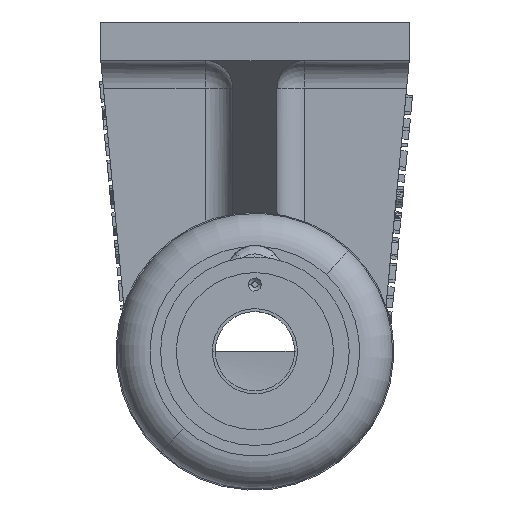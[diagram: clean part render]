
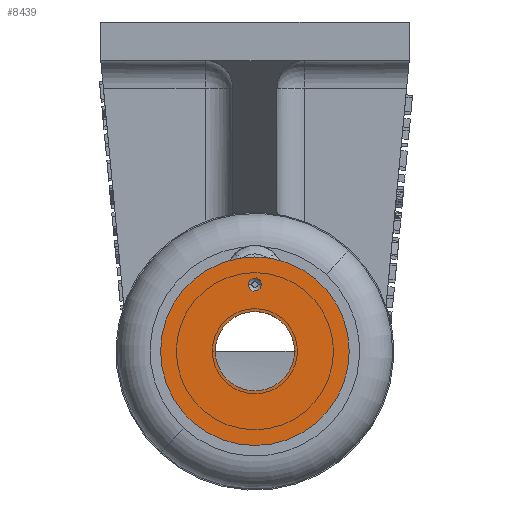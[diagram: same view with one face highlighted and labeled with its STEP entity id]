
A CAD part, front view. The second image highlights one B-rep face of the part: STEP entity #8439.
In plain terms, the highlighted planar face has unit normal (0, -1, 0).
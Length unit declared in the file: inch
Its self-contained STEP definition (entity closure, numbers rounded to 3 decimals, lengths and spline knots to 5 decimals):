
#708=CARTESIAN_POINT('',(0.625,-0.125,-30.));
#709=DIRECTION('',(0.,-1.,0.));
#710=DIRECTION('',(-1.,0.,0.));
#711=AXIS2_PLACEMENT_3D('',#708,#709,#710);
#713=CARTESIAN_POINT('',(0.625,-0.125,-30.));
#714=DIRECTION('',(0.,-1.,0.));
#715=DIRECTION('',(1.,0.,0.));
#716=AXIS2_PLACEMENT_3D('',#713,#714,#715);
#718=CARTESIAN_POINT('',(0.68625,-0.125,
-29.395));
#719=CARTESIAN_POINT('',(0.68625,-0.125,
-29.39739));
#720=CARTESIAN_POINT('',(0.68598,-0.125,
-29.40212));
#721=CARTESIAN_POINT('',(0.68474,-0.125,
-29.40916));
#722=CARTESIAN_POINT('',(0.68269,-0.125,
-29.41599));
#723=CARTESIAN_POINT('',(0.67986,-0.125,
-29.42255));
#724=CARTESIAN_POINT('',(0.6763,-0.125,
-29.42873));
#725=CARTESIAN_POINT('',(0.67203,-0.125,
-29.43446));
#726=CARTESIAN_POINT('',(0.66714,-0.125,
-29.43965));
#727=CARTESIAN_POINT('',(0.66165,-0.125,
-29.44425));
#728=CARTESIAN_POINT('',(0.6557,-0.125,
-29.44816));
#729=CARTESIAN_POINT('',(0.64931,-0.125,
-29.45137));
#730=CARTESIAN_POINT('',(0.64262,-0.125,
-29.45381));
#731=CARTESIAN_POINT('',(0.63565,-0.125,
-29.45546));
#732=CARTESIAN_POINT('',(0.62858,-0.125,
-29.45629));
#733=CARTESIAN_POINT('',(0.62142,-0.125,
-29.45629));
#734=CARTESIAN_POINT('',(0.61435,-0.125,
-29.45546));
#735=CARTESIAN_POINT('',(0.60738,-0.125,
-29.45381));
#736=CARTESIAN_POINT('',(0.60069,-0.125,
-29.45138));
#737=CARTESIAN_POINT('',(0.5943,-0.125,
-29.44816));
#738=CARTESIAN_POINT('',(0.58835,-0.125,
-29.44425));
#739=CARTESIAN_POINT('',(0.58286,-0.125,
-29.43965));
#740=CARTESIAN_POINT('',(0.57798,-0.125,
-29.43447));
#741=CARTESIAN_POINT('',(0.5737,-0.125,
-29.42873));
#742=CARTESIAN_POINT('',(0.57014,-0.125,
-29.42255));
#743=CARTESIAN_POINT('',(0.56731,-0.125,
-29.41599));
#744=CARTESIAN_POINT('',(0.56526,-0.125,
-29.40916));
#745=CARTESIAN_POINT('',(0.56402,-0.125,
-29.40212));
#746=CARTESIAN_POINT('',(0.56375,-0.125,
-29.39739));
#747=CARTESIAN_POINT('',(0.56375,-0.125,
-29.395));
#749=CARTESIAN_POINT('',(0.56375,-0.125,
-29.395));
#750=CARTESIAN_POINT('',(0.56375,-0.125,
-29.39261));
#751=CARTESIAN_POINT('',(0.56402,-0.125,
-29.38788));
#752=CARTESIAN_POINT('',(0.56526,-0.125,
-29.38084));
#753=CARTESIAN_POINT('',(0.56731,-0.125,
-29.37401));
#754=CARTESIAN_POINT('',(0.57014,-0.125,
-29.36745));
#755=CARTESIAN_POINT('',(0.5737,-0.125,
-29.36127));
#756=CARTESIAN_POINT('',(0.57797,-0.125,
-29.35554));
#757=CARTESIAN_POINT('',(0.58286,-0.125,
-29.35035));
#758=CARTESIAN_POINT('',(0.58835,-0.125,
-29.34575));
#759=CARTESIAN_POINT('',(0.5943,-0.125,
-29.34184));
#760=CARTESIAN_POINT('',(0.60069,-0.125,
-29.33863));
#761=CARTESIAN_POINT('',(0.60738,-0.125,
-29.33619));
#762=CARTESIAN_POINT('',(0.61435,-0.125,
-29.33454));
#763=CARTESIAN_POINT('',(0.62142,-0.125,
-29.33371));
#764=CARTESIAN_POINT('',(0.62858,-0.125,
-29.33371));
#765=CARTESIAN_POINT('',(0.63565,-0.125,
-29.33454));
#766=CARTESIAN_POINT('',(0.64262,-0.125,
-29.33619));
#767=CARTESIAN_POINT('',(0.64931,-0.125,
-29.33862));
#768=CARTESIAN_POINT('',(0.6557,-0.125,
-29.34184));
#769=CARTESIAN_POINT('',(0.66165,-0.125,
-29.34575));
#770=CARTESIAN_POINT('',(0.66714,-0.125,
-29.35035));
#771=CARTESIAN_POINT('',(0.67202,-0.125,
-29.35553));
#772=CARTESIAN_POINT('',(0.6763,-0.125,
-29.36127));
#773=CARTESIAN_POINT('',(0.67986,-0.125,
-29.36745));
#774=CARTESIAN_POINT('',(0.68269,-0.125,
-29.37401));
#775=CARTESIAN_POINT('',(0.68474,-0.125,
-29.38084));
#776=CARTESIAN_POINT('',(0.68598,-0.125,
-29.38788));
#777=CARTESIAN_POINT('',(0.68625,-0.125,
-29.39261));
#778=CARTESIAN_POINT('',(0.68625,-0.125,
-29.395));
#780=CARTESIAN_POINT('',(0.625,-0.125,-30.));
#781=DIRECTION('',(0.,-1.,0.));
#782=DIRECTION('',(-1.,0.,0.));
#783=AXIS2_PLACEMENT_3D('',#780,#781,#782);
#785=CARTESIAN_POINT('',(0.625,-0.125,-30.));
#786=DIRECTION('',(0.,-1.,0.));
#787=DIRECTION('',(1.,0.,0.));
#788=AXIS2_PLACEMENT_3D('',#785,#786,#787);
#6966=CARTESIAN_POINT('',(-0.23,-0.125,-30.));
#6967=CARTESIAN_POINT('',(1.48,-0.125,-30.));
#6968=VERTEX_POINT('',#6966);
#6969=VERTEX_POINT('',#6967);
#6978=VERTEX_POINT('',#718);
#6979=VERTEX_POINT('',#747);
#6986=CARTESIAN_POINT('',(0.26552,-0.125,-30.));
#6987=CARTESIAN_POINT('',(0.98448,-0.125,-30.));
#6988=VERTEX_POINT('',#6986);
#6989=VERTEX_POINT('',#6987);
#8417=CARTESIAN_POINT('',(0.625,-0.125,-30.));
#8418=DIRECTION('',(0.,-1.,0.));
#8419=DIRECTION('',(-1.,0.,0.));
#8420=AXIS2_PLACEMENT_3D('',#8417,#8418,#8419);
#8421=PLANE('',#8420);
#8423=ORIENTED_EDGE('',*,*,#8422,.F.);
#8425=ORIENTED_EDGE('',*,*,#8424,.F.);
#8426=EDGE_LOOP('',(#8423,#8425));
#8427=FACE_OUTER_BOUND('',#8426,.F.);
#8429=ORIENTED_EDGE('',*,*,#8428,.F.);
#8431=ORIENTED_EDGE('',*,*,#8430,.F.);
#8432=EDGE_LOOP('',(#8429,#8431));
#8433=FACE_BOUND('',#8432,.F.);
#8434=ORIENTED_EDGE('',*,*,#8407,.T.);
#8436=ORIENTED_EDGE('',*,*,#8435,.T.);
#8437=EDGE_LOOP('',(#8434,#8436));
#8438=FACE_BOUND('',#8437,.F.);
#712=CIRCLE('',#711,0.855);
#717=CIRCLE('',#716,0.855);
#748=B_SPLINE_CURVE_WITH_KNOTS('',3,(#718,#719,#720,#721,#722,#723,#724,#725,
#726,#727,#728,#729,#730,#731,#732,#733,#734,#735,#736,#737,#738,#739,#740,#741,
#742,#743,#744,#745,#746,#747),.UNSPECIFIED.,.F.,.F.,(4,1,1,1,1,1,1,1,1,1,1,1,1,
1,1,1,1,1,1,1,1,1,1,1,1,1,1,4),(0.,0.03704,0.07407,
0.11111,0.14815,0.18519,0.22222,
0.25926,0.2963,0.33333,0.37037,
0.40741,0.44444,0.48148,0.51852,
0.55556,0.59259,0.62963,0.66667,
0.7037,0.74074,0.77778,0.81481,
0.85185,0.88889,0.92593,0.96296,1.),
.UNSPECIFIED.);
#779=B_SPLINE_CURVE_WITH_KNOTS('',3,(#749,#750,#751,#752,#753,#754,#755,#756,
#757,#758,#759,#760,#761,#762,#763,#764,#765,#766,#767,#768,#769,#770,#771,#772,
#773,#774,#775,#776,#777,#778),.UNSPECIFIED.,.F.,.F.,(4,1,1,1,1,1,1,1,1,1,1,1,1,
1,1,1,1,1,1,1,1,1,1,1,1,1,1,4),(0.,0.03704,0.07407,
0.11111,0.14815,0.18519,0.22222,
0.25926,0.2963,0.33333,0.37037,
0.40741,0.44444,0.48148,0.51852,
0.55556,0.59259,0.62963,0.66667,
0.7037,0.74074,0.77778,0.81481,
0.85185,0.88889,0.92593,0.96296,1.),
.UNSPECIFIED.);
#784=CIRCLE('',#783,0.35948);
#789=CIRCLE('',#788,0.35948);
#8407=EDGE_CURVE('',#6988,#6989,#784,.T.);
#8422=EDGE_CURVE('',#6968,#6969,#712,.T.);
#8424=EDGE_CURVE('',#6969,#6968,#717,.T.);
#8428=EDGE_CURVE('',#6978,#6979,#748,.T.);
#8430=EDGE_CURVE('',#6979,#6978,#779,.T.);
#8435=EDGE_CURVE('',#6989,#6988,#789,.T.);
#8439=ADVANCED_FACE('',(#8427,#8433,#8438),#8421,.T.);
